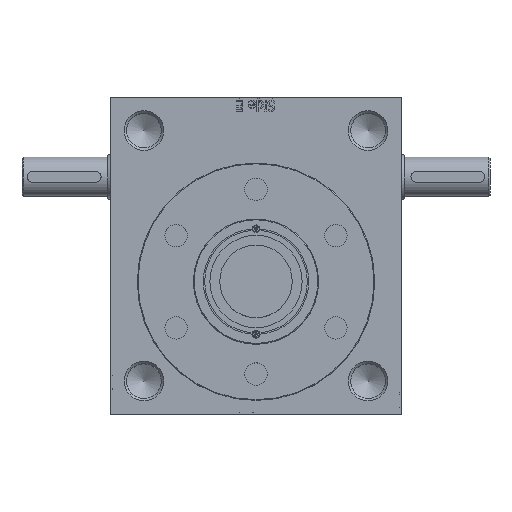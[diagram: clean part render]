
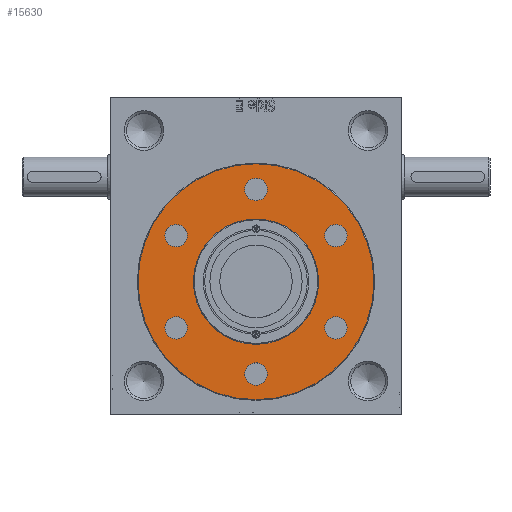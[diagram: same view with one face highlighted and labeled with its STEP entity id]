
A CAD part, top view. The second image highlights one B-rep face of the part: STEP entity #15630.
In plain terms, the highlighted planar face has unit normal (0, 0, 1) as drawn and (0, 0, -1) by its records, which use the part's own axes.
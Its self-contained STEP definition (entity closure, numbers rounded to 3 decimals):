
#1448=FACE_BOUND('',#3653,.T.);
#1449=FACE_BOUND('',#3654,.T.);
#1450=FACE_BOUND('',#3655,.T.);
#1451=FACE_BOUND('',#3656,.T.);
#1452=FACE_BOUND('',#3657,.T.);
#1453=FACE_BOUND('',#3658,.T.);
#1454=FACE_BOUND('',#3659,.T.);
#1847=PLANE('',#16383);
#2683=FACE_OUTER_BOUND('',#3652,.T.);
#3652=EDGE_LOOP('',(#14573));
#3653=EDGE_LOOP('',(#14574));
#3654=EDGE_LOOP('',(#14575));
#3655=EDGE_LOOP('',(#14576));
#3656=EDGE_LOOP('',(#14577));
#3657=EDGE_LOOP('',(#14578));
#3658=EDGE_LOOP('',(#14579));
#3659=EDGE_LOOP('',(#14580));
#6480=CIRCLE('',#16382,89.5);
#6481=CIRCLE('',#16384,47.5);
#6482=CIRCLE('',#16385,8.5);
#6483=CIRCLE('',#16386,8.5);
#6484=CIRCLE('',#16387,8.5);
#6485=CIRCLE('',#16388,8.5);
#6486=CIRCLE('',#16389,8.5);
#6487=CIRCLE('',#16390,8.5);
#7962=VERTEX_POINT('',#29779);
#7963=VERTEX_POINT('',#29783);
#7964=VERTEX_POINT('',#29785);
#7965=VERTEX_POINT('',#29787);
#7966=VERTEX_POINT('',#29789);
#7967=VERTEX_POINT('',#29791);
#7968=VERTEX_POINT('',#29793);
#7969=VERTEX_POINT('',#29795);
#10182=EDGE_CURVE('',#7962,#7962,#6480,.T.);
#10183=EDGE_CURVE('',#7963,#7963,#6481,.T.);
#10184=EDGE_CURVE('',#7964,#7964,#6482,.T.);
#10185=EDGE_CURVE('',#7965,#7965,#6483,.T.);
#10186=EDGE_CURVE('',#7966,#7966,#6484,.T.);
#10187=EDGE_CURVE('',#7967,#7967,#6485,.T.);
#10188=EDGE_CURVE('',#7968,#7968,#6486,.T.);
#10189=EDGE_CURVE('',#7969,#7969,#6487,.T.);
#14573=ORIENTED_EDGE('',*,*,#10182,.F.);
#14574=ORIENTED_EDGE('',*,*,#10183,.F.);
#14575=ORIENTED_EDGE('',*,*,#10184,.T.);
#14576=ORIENTED_EDGE('',*,*,#10185,.T.);
#14577=ORIENTED_EDGE('',*,*,#10186,.T.);
#14578=ORIENTED_EDGE('',*,*,#10187,.T.);
#14579=ORIENTED_EDGE('',*,*,#10188,.T.);
#14580=ORIENTED_EDGE('',*,*,#10189,.T.);
#15630=ADVANCED_FACE('',(#2683,#1448,#1449,#1450,#1451,#1452,#1453,#1454),
#1847,.F.);
#16382=AXIS2_PLACEMENT_3D('',#29781,#18857,#18858);
#16383=AXIS2_PLACEMENT_3D('',#29782,#18859,#18860);
#16384=AXIS2_PLACEMENT_3D('',#29784,#18861,#18862);
#16385=AXIS2_PLACEMENT_3D('',#29786,#18863,#18864);
#16386=AXIS2_PLACEMENT_3D('',#29788,#18865,#18866);
#16387=AXIS2_PLACEMENT_3D('',#29790,#18867,#18868);
#16388=AXIS2_PLACEMENT_3D('',#29792,#18869,#18870);
#16389=AXIS2_PLACEMENT_3D('',#29794,#18871,#18872);
#16390=AXIS2_PLACEMENT_3D('',#29796,#18873,#18874);
#18857=DIRECTION('center_axis',(0.,0.,
1.));
#18858=DIRECTION('ref_axis',(1.,0.,0.));
#18859=DIRECTION('center_axis',(0.,0.,
1.));
#18860=DIRECTION('ref_axis',(1.,0.,0.));
#18861=DIRECTION('center_axis',(0.,0.,
-1.));
#18862=DIRECTION('ref_axis',(1.,0.,0.));
#18863=DIRECTION('center_axis',(0.,0.,
1.));
#18864=DIRECTION('ref_axis',(-1.,0.,0.));
#18865=DIRECTION('center_axis',(0.,0.,
1.));
#18866=DIRECTION('ref_axis',(-0.5,0.866,0.));
#18867=DIRECTION('center_axis',(0.,0.,
1.));
#18868=DIRECTION('ref_axis',(-0.5,-0.866,0.));
#18869=DIRECTION('center_axis',(0.,0.,
1.));
#18870=DIRECTION('ref_axis',(0.5,-0.866,0.));
#18871=DIRECTION('center_axis',(0.,0.,
1.));
#18872=DIRECTION('ref_axis',(1.,0.,0.));
#18873=DIRECTION('center_axis',(0.,0.,
1.));
#18874=DIRECTION('ref_axis',(0.5,0.866,0.));
#29779=CARTESIAN_POINT('',(-89.5,0.,70.));
#29781=CARTESIAN_POINT('Origin',(0.,0.,
70.));
#29782=CARTESIAN_POINT('Origin',(0.,0.,
70.));
#29783=CARTESIAN_POINT('',(-47.5,0.,70.));
#29784=CARTESIAN_POINT('Origin',(0.,0.,
70.));
#29785=CARTESIAN_POINT('',(8.5,70.,70.));
#29786=CARTESIAN_POINT('Origin',(0.,70.,70.));
#29787=CARTESIAN_POINT('',(64.872,27.639,70.));
#29788=CARTESIAN_POINT('Origin',(60.622,35.,70.));
#29789=CARTESIAN_POINT('',(-56.372,42.361,70.));
#29790=CARTESIAN_POINT('Origin',(-60.622,35.,70.));
#29791=CARTESIAN_POINT('',(-64.872,-27.639,70.));
#29792=CARTESIAN_POINT('Origin',(-60.622,-35.,70.));
#29793=CARTESIAN_POINT('',(-8.5,-70.,70.));
#29794=CARTESIAN_POINT('Origin',(0.,-70.,70.));
#29795=CARTESIAN_POINT('',(56.372,-42.361,70.));
#29796=CARTESIAN_POINT('Origin',(60.622,-35.,70.));
